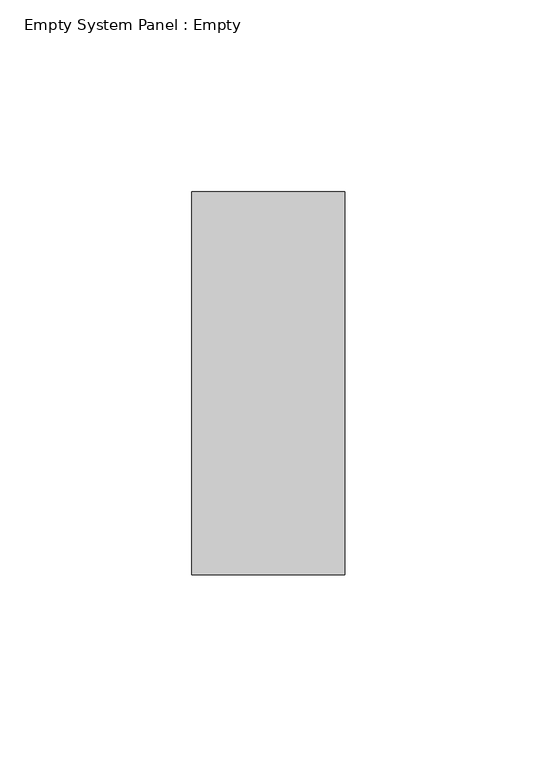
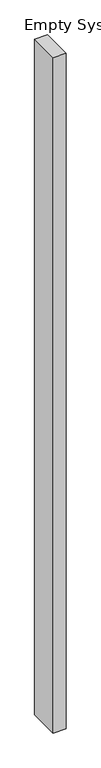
"""IFC4 building model written with IfcOpenShell, lengths in millimetres: plate geometry, Empty System Panel : Empty."""

import ifcopenshell
import ifcopenshell.guid

model = None  # the IFC model being written
_history = None  # IfcOwnerHistory: only IFC2X3 demands one
_inside = {}  # id of a spatial element -> (the spatial element, [elements in it])
_under = {}  # id of a project, library or spatial element -> (it, [spatial elements below it])
_declared = {}  # id of a project -> (the project, [libraries it declares])
_typed = {}  # id of a type object -> (the type object, [elements of that type])
_made_of = {}  # id of a material, layer set ... -> (it, [elements and type objects made of it])


def new_model(schema):
    """Start an empty IFC model of exactly this schema.

    Asked for "IFC4X3", IfcOpenShell would pick the latest addendum, in which some entities
    have other attributes; the version numbers below select the first issue.
    IFC2X3 requires an IfcOwnerHistory on every rooted entity: one is made here for all.
    """
    global model, _history
    if schema == "IFC4X3":
        model = ifcopenshell.file(schema_version=(4, 3, 0, 0))
    else:
        model = ifcopenshell.file(schema=schema)
    _inside.clear()
    _under.clear()
    _declared.clear()
    _typed.clear()
    _made_of.clear()
    _history = None
    if model.schema == "IFC2X3":
        org = make("IfcOrganization", Name="unknown")
        user = make(
            "IfcPersonAndOrganization",
            ThePerson=make("IfcPerson", FamilyName="unknown"),
            TheOrganization=org,
        )
        app = make(
            "IfcApplication",
            ApplicationDeveloper=org,
            Version="unknown",
            ApplicationFullName="unknown",
            ApplicationIdentifier="unknown",
        )
        _history = make(
            "IfcOwnerHistory",
            OwningUser=user,
            OwningApplication=app,
            ChangeAction="ADDED",
            CreationDate=0,
        )
    return model


def make(cls, **values):
    """One entity of the class cls with the attributes given. An attribute that is None is left unset."""
    return model.create_entity(
        cls, **{name: value for name, value in values.items() if value is not None}
    )


def rooted(cls, **values):
    """An entity with a GlobalId (a new one), such as an element, a storey or a relation."""
    return make(cls, GlobalId=ifcopenshell.guid.new(), OwnerHistory=_history, **values)


def si_unit(unit_type, name, prefix=None):
    """IfcSIUnit, for example si_unit("LENGTHUNIT", "METRE", prefix="MILLI")."""
    return make("IfcSIUnit", UnitType=unit_type, Prefix=prefix, Name=name)


def assignment(units):
    """IfcUnitAssignment: the units of a project."""
    return None if units is None else make("IfcUnitAssignment", Units=units)


def point(xyz):
    """IfcCartesianPoint."""
    return None if xyz is None else make("IfcCartesianPoint", Coordinates=xyz)


def direction(xyz):
    """IfcDirection."""
    return None if xyz is None else make("IfcDirection", DirectionRatios=xyz)


def frame(location, z_axis=None, x_axis=None):
    """IfcAxis2Placement3D, a coordinate frame: its origin and axes. An axis left out is left unset."""
    return make(
        "IfcAxis2Placement3D",
        Location=point(location),
        Axis=direction(z_axis),
        RefDirection=direction(x_axis),
    )


def origin():
    """The frame at (0, 0, 0) with its axes left unset."""
    return frame((0.0, 0.0, 0.0))


def origin_with_axes():
    """The frame at (0, 0, 0) with the z axis (0, 0, 1) and the x axis (1, 0, 0) written out."""
    return frame((0.0, 0.0, 0.0), z_axis=(0.0, 0.0, 1.0), x_axis=(1.0, 0.0, 0.0))


def place(relative_to, where):
    """IfcLocalPlacement: puts the frame where relative to a parent placement (None: the world)."""
    return make(
        "IfcLocalPlacement", PlacementRelTo=relative_to, RelativePlacement=where
    )


def context(
    kind, dimensions, precision=None, world=None, true_north=None, identifier=None
):
    """IfcGeometricRepresentationContext, for example the 3D "Model" context."""
    return make(
        "IfcGeometricRepresentationContext",
        ContextIdentifier=identifier,
        ContextType=kind,
        CoordinateSpaceDimension=dimensions,
        Precision=precision,
        WorldCoordinateSystem=world,
        TrueNorth=true_north,
    )


def project(units=None, contexts=None):
    """IfcProject with its units and contexts."""
    return rooted(
        "IfcProject",
        Name="project",
        RepresentationContexts=contexts,
        UnitsInContext=assignment(units),
    )


def spatial(cls, under=None, at=None, **own):
    """A site, building, storey or space (cls), placed at a placement, below another one or the project."""
    s = rooted(cls, ObjectPlacement=at, **own)
    if under is not None:
        _under.setdefault(under.id(), (under, []))[1].append(s)
    return s


def polyline(points):
    """IfcPolyline through the points."""
    return make("IfcPolyline", Points=[point(p) for p in points])


def outline(outer, holes=None, kind="AREA"):
    """IfcArbitraryClosedProfileDef: a profile drawn as a closed curve; with holes, ...WithVoids."""
    if holes is None:
        return make("IfcArbitraryClosedProfileDef", ProfileType=kind, OuterCurve=outer)
    return make(
        "IfcArbitraryProfileDefWithVoids",
        ProfileType=kind,
        OuterCurve=outer,
        InnerCurves=holes,
    )


def extrude(swept, where, along, depth):
    """IfcExtrudedAreaSolid: the profile swept, set in the frame where, extruded along a direction by depth."""
    return make(
        "IfcExtrudedAreaSolid",
        SweptArea=swept,
        Position=where,
        ExtrudedDirection=direction(along),
        Depth=depth,
    )


def shape(context_of_items, identifier, shape_type, items):
    """IfcShapeRepresentation: the items that make up one representation, for example the "Body"."""
    return make(
        "IfcShapeRepresentation",
        ContextOfItems=context_of_items,
        RepresentationIdentifier=identifier,
        RepresentationType=shape_type,
        Items=items,
    )


def source(mapping_origin, context_of_items, identifier, shape_type, items):
    """IfcRepresentationMap: a shape defined once, which mapped items show again and again."""
    return make(
        "IfcRepresentationMap",
        MappingOrigin=mapping_origin,
        MappedRepresentation=shape(context_of_items, identifier, shape_type, items),
    )


def transform(
    local_origin,
    x_axis=None,
    y_axis=None,
    z_axis=None,
    scale=None,
    scale2=None,
    scale3=None,
    uniform=True,
):
    """IfcCartesianTransformationOperator3D, or its non-uniform kind. x_axis, y_axis, z_axis: its Axis1, 2, 3."""
    if uniform:
        return make(
            "IfcCartesianTransformationOperator3D",
            Axis1=direction(x_axis),
            Axis2=direction(y_axis),
            LocalOrigin=point(local_origin),
            Scale=scale,
            Axis3=direction(z_axis),
        )
    return make(
        "IfcCartesianTransformationOperator3DnonUniform",
        Axis1=direction(x_axis),
        Axis2=direction(y_axis),
        LocalOrigin=point(local_origin),
        Scale=scale,
        Axis3=direction(z_axis),
        Scale2=scale2,
        Scale3=scale3,
    )


def mapped(mapping_source, mapping_target):
    """IfcMappedItem: shows the shape of a source again, moved by a transform."""
    return make(
        "IfcMappedItem", MappingSource=mapping_source, MappingTarget=mapping_target
    )


def made_of(thing, what):
    """Note that an element or type object is made of a material, layer set ...; save() writes the relation."""
    if what is not None:
        _made_of.setdefault(what.id(), (what, []))[1].append(thing)
    return thing


def element(
    cls,
    number,
    at=None,
    inside=None,
    cuts=None,
    type_object=None,
    material=None,
    context=None,
    identifier="Body",
    shape_type=None,
    held_by="IfcProductDefinitionShape",
    body=None,
    shapes=None,
    **own,
):
    """One element of the class cls, such as IfcWall. Its Tag is "e" and its number.

    at: its placement. inside: the storey or other place that contains it. cuts: it is an
    opening in that element (IfcRelVoidsElement). A single representation is given by context,
    identifier, shape_type and body (its items); several are given by shapes. held_by: the class
    of the entity that holds the representations. save() writes the other relations.
    """
    e = rooted(cls, Tag="e%d" % number, ObjectPlacement=at, **own)
    if body is not None:
        shapes = [shape(context, identifier, shape_type, body)]
    if shapes is not None:
        e.Representation = make(held_by, Representations=shapes)
    if inside is not None:
        _inside.setdefault(inside.id(), (inside, []))[1].append(e)
    if cuts is not None:
        rooted(
            "IfcRelVoidsElement", RelatingBuildingElement=cuts, RelatedOpeningElement=e
        )
    if type_object is not None:
        _typed.setdefault(type_object.id(), (type_object, []))[1].append(e)
    return made_of(e, material)


def aggregate(whole, parts):
    """IfcRelAggregates: a whole, such as a stair, and the parts it consists of."""
    return rooted("IfcRelAggregates", RelatingObject=whole, RelatedObjects=parts)


def save(model, path):
    """Write the relations noted so far, then the file.

    IfcRelAggregates (storeys below a building ...), IfcRelContainedInSpatialStructure (elements
    in a storey), IfcRelDefinesByType, IfcRelAssociatesMaterial and IfcRelDeclares: one each for
    every whole, place, type object, material and project.
    """
    for whole, parts in _under.values():
        aggregate(whole, parts)
    for where, things in _inside.values():
        rooted(
            "IfcRelContainedInSpatialStructure",
            RelatedElements=things,
            RelatingStructure=where,
        )
    for kind, things in _typed.values():
        rooted("IfcRelDefinesByType", RelatedObjects=things, RelatingType=kind)
    for what, things in _made_of.values():
        rooted("IfcRelAssociatesMaterial", RelatedObjects=things, RelatingMaterial=what)
    for by, libraries in _declared.values():
        rooted("IfcRelDeclares", RelatingContext=by, RelatedDefinitions=libraries)
    model.write(path)


def empty_system_panel_empty_2ee623c3(model_context):
    return source(origin(), model_context, "Body", "SweptSolid", [
        extrude(outline(polyline([(19.9999998, 50.0), (-19.9999998, 50.0), (-19.9999998, 150.0), (19.9999998, 150.0), (19.9999998, 50.0)])), origin_with_axes(), (0.0, 0.0, 1.0), 2225.0),
    ])


if __name__ == "__main__":
    model = new_model("IFC4")
    model_context = context("Model", 3, world=origin())
    ifc_project = project(units=[si_unit("LENGTHUNIT", "METRE", prefix="MILLI")], contexts=[model_context])
    site = spatial("IfcSite", under=ifc_project)
    building = spatial("IfcBuilding", under=site)
    placement = place(None, origin())
    empty_system_panel_empty_shape = empty_system_panel_empty_2ee623c3(model_context)
    element("IfcPlate", 1, ObjectType="Empty System Panel : Empty", at=placement, inside=building, context=model_context, shape_type="MappedRepresentation", body=[
        mapped(empty_system_panel_empty_shape, transform((0.0, 0.0, 0.0), x_axis=(1.0, 0.0, 0.0), y_axis=(0.0, 1.0, 0.0), z_axis=(0.0, 0.0, 1.0))),
    ])
    save(model, "model.ifc")
